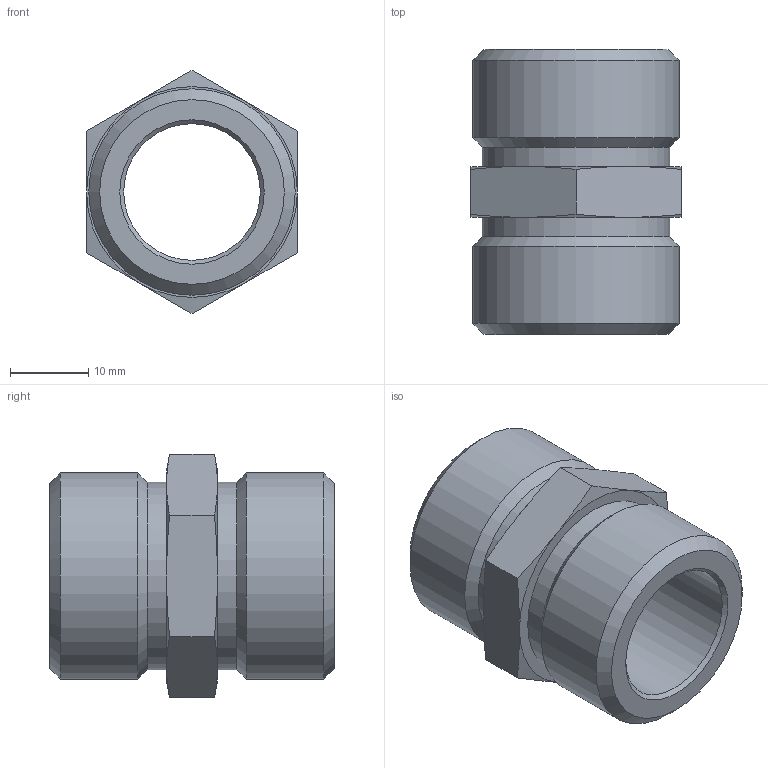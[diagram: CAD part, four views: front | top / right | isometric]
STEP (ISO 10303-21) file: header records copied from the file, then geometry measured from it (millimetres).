
FILE_DESCRIPTION(('STEP AP203'), '1');
FILE_NAME('ÂÐ.753137.063 - VTi.582.I.0505', '', ('UNSPECIFIED'), ('UNSPECIFIED'), 'C3D Converter', 'C3D Toolkit', '');
FILE_SCHEMA(('CONFIG_CONTROL_DESIGN'));
Length unit declared in the file: millimetre
Products named in the file (1): ВР.753137.063
Bounding box: 27 x 36.5 x 31.18 mm (x, y, z)
Volume: 11013.6 mm3; surface area: 5919.7 mm2
Topology: 1 solids, 1 shells, 33 faces, 78 edges, 51 vertices
Faces by surface type: cone 18, plane 10, cylinder 5
Full cylindrical faces by diameter (mm): 17.5 x1, 24 x2, 26.441 x2
Entity records: 1895 total; most frequent: CARTESIAN_POINT 1178, DIRECTION 136, ORIENTED_EDGE 106, AXIS2_PLACEMENT_3D 65, EDGE_CURVE 53, EDGE_LOOP 46, VERTEX_POINT 37, CIRCLE 33
